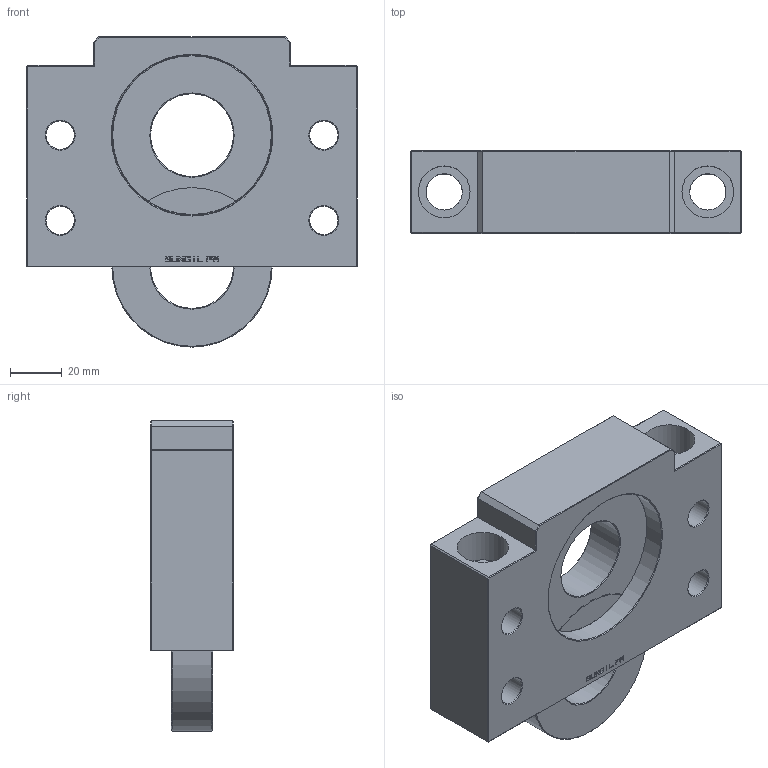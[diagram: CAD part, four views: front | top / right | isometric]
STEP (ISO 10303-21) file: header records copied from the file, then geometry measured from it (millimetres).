
FILE_DESCRIPTION( ( 'Unknown' ), '1' );
FILE_NAME( 'D:/3D/憮んお嶸棉/20060119/SBF TYPE/SBF30/SBF30(ASSM).stp', 'Unknown', ( 'Unknown' ), ( 'Unknown' ), 'XStep 1.0', 'Unknown', ' ' );
FILE_SCHEMA( ( 'CONFIG_CONTROL_DESIGN' ) );
Length unit declared in the file: millimetre
Products named in the file (3): Assem1; SBF30(housing); bearing(6206ZZ)
Bounding box: 128 x 32 x 120 mm (x, y, z)
Surface area: 104869 mm2
Topology: 4 solids, 4 shells, 788 faces, 2144 edges, 1404 vertices
Faces by surface type: plane 422, cylinder 334, cone 32
Full cylindrical faces by diameter (mm): 11 x16, 14 x4, 20 x4, 32 x2, 62 x4
Entity records: 13085 total; most frequent: CARTESIAN_POINT 2812, DIRECTION 2161, ORIENTED_EDGE 2066, EDGE_CURVE 1033, AXIS2_PLACEMENT_3D 739, VERTEX_POINT 694, LINE 683, VECTOR 683
